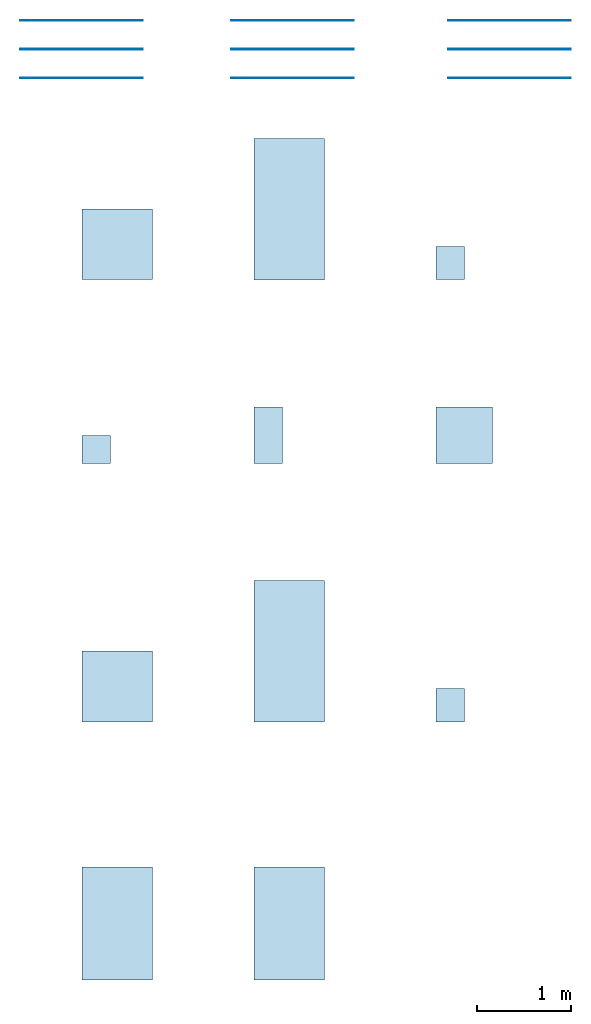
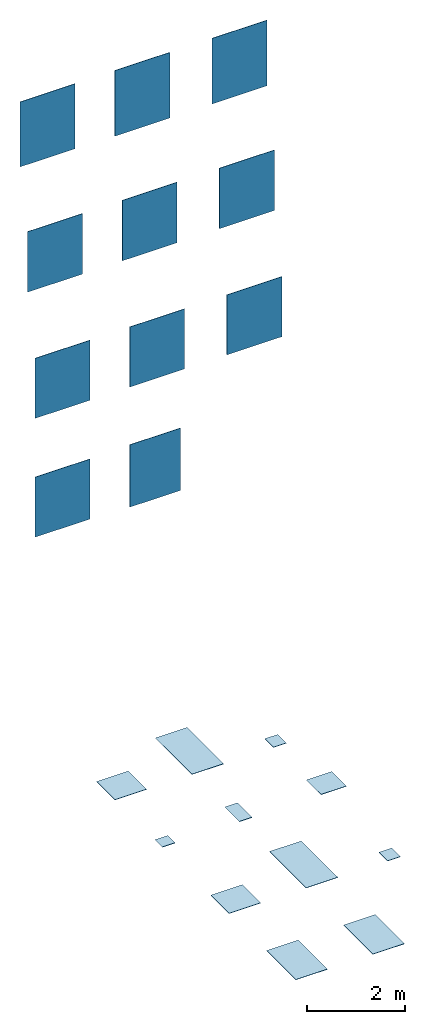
# One storey: 11 slabs, 11 walls.
"""IFC2X3 building model written with IfcOpenShell, lengths in millimetres."""

import ifcopenshell
import ifcopenshell.guid

model = None  # the IFC model being written
_history = None  # IfcOwnerHistory: only IFC2X3 demands one
_inside = {}  # id of a spatial element -> (the spatial element, [elements in it])
_under = {}  # id of a project, library or spatial element -> (it, [spatial elements below it])
_declared = {}  # id of a project -> (the project, [libraries it declares])
_typed = {}  # id of a type object -> (the type object, [elements of that type])
_made_of = {}  # id of a material, layer set ... -> (it, [elements and type objects made of it])


def new_model(schema):
    """Start an empty IFC model of exactly this schema.

    Asked for "IFC4X3", IfcOpenShell would pick the latest addendum, in which some entities
    have other attributes; the version numbers below select the first issue.
    IFC2X3 requires an IfcOwnerHistory on every rooted entity: one is made here for all.
    """
    global model, _history
    if schema == "IFC4X3":
        model = ifcopenshell.file(schema_version=(4, 3, 0, 0))
    else:
        model = ifcopenshell.file(schema=schema)
    _inside.clear()
    _under.clear()
    _declared.clear()
    _typed.clear()
    _made_of.clear()
    _history = None
    if model.schema == "IFC2X3":
        org = make("IfcOrganization", Name="unknown")
        user = make(
            "IfcPersonAndOrganization",
            ThePerson=make("IfcPerson", FamilyName="unknown"),
            TheOrganization=org,
        )
        app = make(
            "IfcApplication",
            ApplicationDeveloper=org,
            Version="unknown",
            ApplicationFullName="unknown",
            ApplicationIdentifier="unknown",
        )
        _history = make(
            "IfcOwnerHistory",
            OwningUser=user,
            OwningApplication=app,
            ChangeAction="ADDED",
            CreationDate=0,
        )
    return model


def make(cls, **values):
    """One entity of the class cls with the attributes given. An attribute that is None is left unset."""
    return model.create_entity(
        cls, **{name: value for name, value in values.items() if value is not None}
    )


def entity(cls, *values):
    """Any entity or typed value of the class cls, its attributes in the order of the schema. None: left unset."""
    e = model.create_entity(cls)
    for i, value in enumerate(values):
        if value is not None:
            e[i] = value
    return e


def rooted(cls, **values):
    """An entity with a GlobalId (a new one), such as an element, a storey or a relation."""
    return make(cls, GlobalId=ifcopenshell.guid.new(), OwnerHistory=_history, **values)


def si_unit(unit_type, name, prefix=None):
    """IfcSIUnit, for example si_unit("LENGTHUNIT", "METRE", prefix="MILLI")."""
    return make("IfcSIUnit", UnitType=unit_type, Prefix=prefix, Name=name)


def converted_unit(unit_type, name, factor, base, dimensions=None, offset=None):
    """IfcConversionBasedUnit, such as the inch: factor (a typed value) times the base unit."""
    return make(
        "IfcConversionBasedUnit"
        if offset is None
        else "IfcConversionBasedUnitWithOffset",
        ConversionOffset=offset,
        Dimensions=None
        if dimensions is None
        else entity("IfcDimensionalExponents", *dimensions),
        UnitType=unit_type,
        Name=name,
        ConversionFactor=make(
            "IfcMeasureWithUnit", ValueComponent=factor, UnitComponent=base
        ),
    )


def derived_unit(unit_type, elements):
    """IfcDerivedUnit: a product of units, each with its exponent."""
    return make(
        "IfcDerivedUnit",
        Elements=[
            make("IfcDerivedUnitElement", Unit=unit, Exponent=power)
            for unit, power in elements
        ],
        UnitType=unit_type,
    )


def assignment(units):
    """IfcUnitAssignment: the units of a project."""
    return None if units is None else make("IfcUnitAssignment", Units=units)


def point(xyz):
    """IfcCartesianPoint."""
    return None if xyz is None else make("IfcCartesianPoint", Coordinates=xyz)


def direction(xyz):
    """IfcDirection."""
    return None if xyz is None else make("IfcDirection", DirectionRatios=xyz)


def frame(location, z_axis=None, x_axis=None):
    """IfcAxis2Placement3D, a coordinate frame: its origin and axes. An axis left out is left unset."""
    return make(
        "IfcAxis2Placement3D",
        Location=point(location),
        Axis=direction(z_axis),
        RefDirection=direction(x_axis),
    )


def frame_2d(location, x_axis=None):
    """IfcAxis2Placement2D, a coordinate frame in the plane: its origin and x axis."""
    return make(
        "IfcAxis2Placement2D", Location=point(location), RefDirection=direction(x_axis)
    )


def origin():
    """The frame at (0, 0, 0) with its axes left unset."""
    return frame((0.0, 0.0, 0.0))


def origin_2d_with_axis():
    """The frame at (0, 0) in the plane with the x axis (1, 0) written out."""
    return frame_2d((0.0, 0.0), x_axis=(1.0, 0.0))


def place(relative_to, where):
    """IfcLocalPlacement: puts the frame where relative to a parent placement (None: the world)."""
    return make(
        "IfcLocalPlacement", PlacementRelTo=relative_to, RelativePlacement=where
    )


def context(
    kind, dimensions, precision=None, world=None, true_north=None, identifier=None
):
    """IfcGeometricRepresentationContext, for example the 3D "Model" context."""
    return make(
        "IfcGeometricRepresentationContext",
        ContextIdentifier=identifier,
        ContextType=kind,
        CoordinateSpaceDimension=dimensions,
        Precision=precision,
        WorldCoordinateSystem=world,
        TrueNorth=true_north,
    )


def subcontext(parent, identifier, kind, view, scale=None):
    """IfcGeometricRepresentationSubContext, for example "Body" below "Model"."""
    return make(
        "IfcGeometricRepresentationSubContext",
        ContextIdentifier=identifier,
        ContextType=kind,
        ParentContext=parent,
        TargetScale=scale,
        TargetView=view,
    )


def project(units=None, contexts=None):
    """IfcProject with its units and contexts."""
    return rooted(
        "IfcProject",
        Name="project",
        RepresentationContexts=contexts,
        UnitsInContext=assignment(units),
    )


def spatial(cls, under=None, at=None, **own):
    """A site, building, storey or space (cls), placed at a placement, below another one or the project."""
    s = rooted(cls, ObjectPlacement=at, **own)
    if under is not None:
        _under.setdefault(under.id(), (under, []))[1].append(s)
    return s


def profile(cls, at=None, kind="AREA", **sizes):
    """A parametric profile (cls). Its sizes go by their IFC names, for example OverallWidth=200.0."""
    return make(cls, ProfileType=kind, Position=at, **sizes)


def rectangle(**sizes):
    """IfcRectangleProfileDef."""
    return profile("IfcRectangleProfileDef", **sizes)


def extrude(swept, where, along, depth):
    """IfcExtrudedAreaSolid: the profile swept, set in the frame where, extruded along a direction by depth."""
    return make(
        "IfcExtrudedAreaSolid",
        SweptArea=swept,
        Position=where,
        ExtrudedDirection=direction(along),
        Depth=depth,
    )


def shape(context_of_items, identifier, shape_type, items):
    """IfcShapeRepresentation: the items that make up one representation, for example the "Body"."""
    return make(
        "IfcShapeRepresentation",
        ContextOfItems=context_of_items,
        RepresentationIdentifier=identifier,
        RepresentationType=shape_type,
        Items=items,
    )


def material(Name=None, Category=None):
    """IfcMaterial."""
    return make("IfcMaterial", Name=Name, Category=Category)


def layer(
    of_material, thickness, ventilated=None, Name=None, Category=None, Priority=None
):
    """IfcMaterialLayer: one layer of a wall or slab, of a material (None: an air gap)."""
    return make(
        "IfcMaterialLayer",
        Material=of_material,
        LayerThickness=thickness,
        IsVentilated=ventilated,
        Name=Name,
        Category=Category,
        Priority=Priority,
    )


def layer_set(layers, Name=None):
    """IfcMaterialLayerSet."""
    return make("IfcMaterialLayerSet", MaterialLayers=layers, LayerSetName=Name)


def layer_usage(for_layer_set, set_direction, sense, offset, extent=None):
    """IfcMaterialLayerSetUsage: how a layer set lies in its element."""
    return make(
        "IfcMaterialLayerSetUsage",
        ForLayerSet=for_layer_set,
        LayerSetDirection=set_direction,
        DirectionSense=sense,
        OffsetFromReferenceLine=offset,
        ReferenceExtent=extent,
    )


def made_of(thing, what):
    """Note that an element or type object is made of a material, layer set ...; save() writes the relation."""
    if what is not None:
        _made_of.setdefault(what.id(), (what, []))[1].append(thing)
    return thing


def type_object(cls, material=None, **own):
    """A type object (cls), such as IfcWallType, which elements share."""
    return made_of(rooted(cls, **own), material)


def element(
    cls,
    number,
    at=None,
    inside=None,
    cuts=None,
    type_object=None,
    material=None,
    context=None,
    identifier="Body",
    shape_type=None,
    held_by="IfcProductDefinitionShape",
    body=None,
    shapes=None,
    **own,
):
    """One element of the class cls, such as IfcWall. Its Tag is "e" and its number.

    at: its placement. inside: the storey or other place that contains it. cuts: it is an
    opening in that element (IfcRelVoidsElement). A single representation is given by context,
    identifier, shape_type and body (its items); several are given by shapes. held_by: the class
    of the entity that holds the representations. save() writes the other relations.
    """
    e = rooted(cls, Tag="e%d" % number, ObjectPlacement=at, **own)
    if body is not None:
        shapes = [shape(context, identifier, shape_type, body)]
    if shapes is not None:
        e.Representation = make(held_by, Representations=shapes)
    if inside is not None:
        _inside.setdefault(inside.id(), (inside, []))[1].append(e)
    if cuts is not None:
        rooted(
            "IfcRelVoidsElement", RelatingBuildingElement=cuts, RelatedOpeningElement=e
        )
    if type_object is not None:
        _typed.setdefault(type_object.id(), (type_object, []))[1].append(e)
    return made_of(e, material)


def aggregate(whole, parts):
    """IfcRelAggregates: a whole, such as a stair, and the parts it consists of."""
    return rooted("IfcRelAggregates", RelatingObject=whole, RelatedObjects=parts)


def save(model, path):
    """Write the relations noted so far, then the file.

    IfcRelAggregates (storeys below a building ...), IfcRelContainedInSpatialStructure (elements
    in a storey), IfcRelDefinesByType, IfcRelAssociatesMaterial and IfcRelDeclares: one each for
    every whole, place, type object, material and project.
    """
    for whole, parts in _under.values():
        aggregate(whole, parts)
    for where, things in _inside.values():
        rooted(
            "IfcRelContainedInSpatialStructure",
            RelatedElements=things,
            RelatingStructure=where,
        )
    for kind, things in _typed.values():
        rooted("IfcRelDefinesByType", RelatedObjects=things, RelatingType=kind)
    for what, things in _made_of.values():
        rooted("IfcRelAssociatesMaterial", RelatedObjects=things, RelatingMaterial=what)
    for by, libraries in _declared.values():
        rooted("IfcRelDeclares", RelatingContext=by, RelatedDefinitions=libraries)
    model.write(path)


model = new_model("IFC2X3")

# Units and contexts
model_context = context("Model", 3, precision=0.01, world=origin(), true_north=direction((6.123031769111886e-17, 1.0)))
body_context = subcontext(model_context, "Body", "Model", "MODEL_VIEW")
ifc_project = project(units=[si_unit("LENGTHUNIT", "METRE", prefix="MILLI"), si_unit("AREAUNIT", "SQUARE_METRE"), si_unit("VOLUMEUNIT", "CUBIC_METRE"), converted_unit("PLANEANGLEUNIT", "DEGREE", entity("IfcPlaneAngleMeasure", 0.017453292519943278), si_unit("PLANEANGLEUNIT", "RADIAN"), dimensions=[0, 0, 0, 0, 0, 0, 0]), si_unit("MASSUNIT", "GRAM", prefix="KILO"), derived_unit("MASSDENSITYUNIT", [(si_unit("MASSUNIT", "GRAM", prefix="KILO"), 1), (si_unit("LENGTHUNIT", "METRE"), -3)]), derived_unit("IONCONCENTRATIONUNIT", [(si_unit("MASSUNIT", "GRAM", prefix="KILO"), 1), (si_unit("LENGTHUNIT", "METRE"), -3)]), derived_unit("MOMENTOFINERTIAUNIT", [(si_unit("LENGTHUNIT", "METRE"), 4)]), si_unit("TIMEUNIT", "SECOND"), si_unit("FREQUENCYUNIT", "HERTZ"), si_unit("THERMODYNAMICTEMPERATUREUNIT", "DEGREE_CELSIUS"), derived_unit("THERMALTRANSMITTANCEUNIT", [(si_unit("MASSUNIT", "GRAM", prefix="KILO"), 1), (si_unit("THERMODYNAMICTEMPERATUREUNIT", "KELVIN"), -1), (si_unit("TIMEUNIT", "SECOND"), -3)]), derived_unit("THERMALCONDUCTANCEUNIT", [(si_unit("MASSUNIT", "GRAM", prefix="KILO"), 1), (si_unit("THERMODYNAMICTEMPERATUREUNIT", "KELVIN"), -1), (si_unit("TIMEUNIT", "SECOND"), -3), (si_unit("LENGTHUNIT", "METRE"), 1)]), derived_unit("VOLUMETRICFLOWRATEUNIT", [(si_unit("LENGTHUNIT", "METRE", prefix="DECI"), 3), (si_unit("TIMEUNIT", "SECOND"), -1)]), derived_unit("MASSFLOWRATEUNIT", [(si_unit("MASSUNIT", "GRAM", prefix="KILO"), 1), (si_unit("TIMEUNIT", "SECOND"), -1)]), derived_unit("ROTATIONALFREQUENCYUNIT", [(si_unit("TIMEUNIT", "SECOND"), -1)]), si_unit("ELECTRICCURRENTUNIT", "AMPERE"), si_unit("ELECTRICVOLTAGEUNIT", "VOLT"), si_unit("POWERUNIT", "WATT"), si_unit("FORCEUNIT", "NEWTON", prefix="KILO"), si_unit("ILLUMINANCEUNIT", "LUX"), si_unit("LUMINOUSFLUXUNIT", "LUMEN"), si_unit("LUMINOUSINTENSITYUNIT", "CANDELA"), si_unit("ENERGYUNIT", "JOULE"), derived_unit("USERDEFINED", [(si_unit("MASSUNIT", "GRAM", prefix="KILO"), -1), (si_unit("LENGTHUNIT", "METRE"), -2), (si_unit("TIMEUNIT", "SECOND"), 3), (si_unit("LUMINOUSFLUXUNIT", "LUMEN"), 1)]), derived_unit("USERDEFINED", [(si_unit("MASSUNIT", "GRAM", prefix="KILO"), 1), (si_unit("TIMEUNIT", "SECOND"), -3), (si_unit("LENGTHUNIT", "METRE"), 3), (si_unit("ELECTRICCURRENTUNIT", "AMPERE"), -2)]), derived_unit("SOUNDPOWERUNIT", [(si_unit("MASSUNIT", "GRAM", prefix="KILO"), 1), (si_unit("TIMEUNIT", "SECOND"), -3), (si_unit("LENGTHUNIT", "METRE"), 2)]), derived_unit("SOUNDPRESSUREUNIT", [(si_unit("MASSUNIT", "GRAM", prefix="KILO"), 1), (si_unit("LENGTHUNIT", "METRE"), -1), (si_unit("TIMEUNIT", "SECOND"), -2)]), derived_unit("LINEARVELOCITYUNIT", [(si_unit("LENGTHUNIT", "METRE"), 1), (si_unit("TIMEUNIT", "SECOND"), -1)]), si_unit("PRESSUREUNIT", "PASCAL"), derived_unit("USERDEFINED", [(si_unit("MASSUNIT", "GRAM", prefix="KILO"), 1), (si_unit("LENGTHUNIT", "METRE"), -2), (si_unit("TIMEUNIT", "SECOND"), -2)]), derived_unit("LINEARFORCEUNIT", [(si_unit("MASSUNIT", "GRAM", prefix="KILO"), 1), (si_unit("TIMEUNIT", "SECOND"), -2)]), derived_unit("PLANARFORCEUNIT", [(si_unit("MASSUNIT", "GRAM", prefix="KILO"), 1), (si_unit("LENGTHUNIT", "METRE"), -1), (si_unit("TIMEUNIT", "SECOND"), -2)]), derived_unit("SPECIFICHEATCAPACITYUNIT", [(si_unit("THERMODYNAMICTEMPERATUREUNIT", "KELVIN"), -1), (si_unit("LENGTHUNIT", "METRE"), 2), (si_unit("TIMEUNIT", "SECOND"), -2)]), derived_unit("HEATFLUXDENSITYUNIT", [(si_unit("MASSUNIT", "GRAM", prefix="KILO"), 1), (si_unit("TIMEUNIT", "SECOND"), -3)]), derived_unit("HEATINGVALUEUNIT", [(si_unit("LENGTHUNIT", "METRE"), 2), (si_unit("TIMEUNIT", "SECOND"), -2)]), derived_unit("VAPORPERMEABILITYUNIT", [(si_unit("LENGTHUNIT", "METRE"), -1), (si_unit("TIMEUNIT", "SECOND"), 1)]), derived_unit("DYNAMICVISCOSITYUNIT", [(si_unit("MASSUNIT", "GRAM", prefix="KILO"), 1), (si_unit("TIMEUNIT", "SECOND"), -1), (si_unit("LENGTHUNIT", "METRE"), -1)]), derived_unit("THERMALEXPANSIONCOEFFICIENTUNIT", [(si_unit("THERMODYNAMICTEMPERATUREUNIT", "KELVIN"), -1)]), derived_unit("MODULUSOFELASTICITYUNIT", [(si_unit("MASSUNIT", "GRAM", prefix="KILO"), 1), (si_unit("LENGTHUNIT", "METRE"), -1), (si_unit("TIMEUNIT", "SECOND"), -2)]), derived_unit("ISOTHERMALMOISTURECAPACITYUNIT", [(si_unit("MASSUNIT", "GRAM", prefix="KILO"), -1), (si_unit("LENGTHUNIT", "METRE"), 3)]), derived_unit("MOISTUREDIFFUSIVITYUNIT", [(si_unit("TIMEUNIT", "SECOND"), -1), (si_unit("LENGTHUNIT", "METRE"), 2)]), derived_unit("MASSPERLENGTHUNIT", [(si_unit("MASSUNIT", "GRAM", prefix="KILO"), 1), (si_unit("LENGTHUNIT", "METRE"), -1)]), derived_unit("THERMALRESISTANCEUNIT", [(si_unit("MASSUNIT", "GRAM", prefix="KILO"), -1), (si_unit("TIMEUNIT", "SECOND"), 3), (si_unit("THERMODYNAMICTEMPERATUREUNIT", "KELVIN"), 1)]), derived_unit("ACCELERATIONUNIT", [(si_unit("LENGTHUNIT", "METRE"), 1), (si_unit("TIMEUNIT", "SECOND"), -2)]), derived_unit("ANGULARVELOCITYUNIT", [(si_unit("TIMEUNIT", "SECOND"), -1), (si_unit("PLANEANGLEUNIT", "RADIAN"), 1)]), derived_unit("LINEARSTIFFNESSUNIT", [(si_unit("MASSUNIT", "GRAM", prefix="KILO"), 1), (si_unit("TIMEUNIT", "SECOND"), -2)]), derived_unit("WARPINGCONSTANTUNIT", [(si_unit("LENGTHUNIT", "METRE"), 6)]), derived_unit("LINEARMOMENTUNIT", [(si_unit("MASSUNIT", "GRAM", prefix="KILO"), 1), (si_unit("LENGTHUNIT", "METRE"), 1), (si_unit("TIMEUNIT", "SECOND"), -2)]), derived_unit("TORQUEUNIT", [(si_unit("MASSUNIT", "GRAM", prefix="KILO"), 1), (si_unit("LENGTHUNIT", "METRE"), 2), (si_unit("TIMEUNIT", "SECOND"), -2)])], contexts=[model_context])

# Site, building, storey
site_placement = place(None, origin())
site = spatial("IfcSite", under=ifc_project, at=site_placement, Name="Default", CompositionType="ELEMENT")
building_placement = place(site_placement, origin())
building = spatial("IfcBuilding", under=site, at=building_placement, CompositionType="ELEMENT")
storey_placement = place(building_placement, origin())
storey = spatial("IfcBuildingStorey", under=building, at=storey_placement, Name="Level 0", CompositionType="ELEMENT", Elevation=0.0)

# Slabs
ifc_material_1 = material(Name="Prestigio Travertino-Bianco-Lucido-Mosaico-Cube 30.4x35.2 OO31")
ifc_layer_1 = layer(ifc_material_1, 9.0)
ifc_material_2 = material(Name="<Unnamed>")
ifc_layer_2 = layer(ifc_material_2, 1.0)
ifc_layer_set_1 = layer_set([ifc_layer_1, ifc_layer_2], Name="Floor:Floor_Tiles_Refin-Prestigio_Travertino-Bianco-Lucido-Mosaico-Cube 30.4x35.2 OO31")
ifc_layer_usage_1 = layer_usage(ifc_layer_set_1, "AXIS3", "POSITIVE", 0.0)
slab_type_1 = type_object("IfcSlabType", Name="Floor:Floor_Tiles_Refin-Prestigio_Travertino-Bianco-Lucido-Mosaico-Cube 30.4x35.2 OO31", PredefinedType="FLOOR", material=ifc_layer_set_1)
slab_1_placement = place(storey_placement, origin())
element("IfcSlab", 1, at=slab_1_placement, inside=storey, type_object=slab_type_1, material=ifc_layer_usage_1, Name="Floor:Floor_Tiles_Refin-Prestigio_Travertino-Bianco-Lucido-Mosaico-Cube 30.4x35.2 OO31", ObjectType="Floor:Floor_Tiles_Refin-Prestigio_Travertino-Bianco-Lucido-Mosaico-Cube 30.4x35.2 OO31", PredefinedType="FLOOR", context=body_context, shape_type="SweptSolid", body=[
    extrude(rectangle(XDim=352.0000000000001, YDim=304.00000000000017, at=origin_2d_with_axis()), frame((10479.186141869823, 5565.462374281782, 0.0), z_axis=(0.0, 0.0, -1.0), x_axis=(0.0, 1.0, 0.0)), (0.0, 0.0, 1.0), 10.0),
])
ifc_material_3 = material(Name="Prestigio Travertino-Bianco-Lucido-75x75 OO02")
ifc_layer_3 = layer(ifc_material_3, 9.0)
ifc_layer_4 = layer(ifc_material_2, 1.0)
ifc_layer_set_2 = layer_set([ifc_layer_3, ifc_layer_4], Name="Floor:Floor_Tiles_Refin-Prestigio_Travertino-Bianco-Lucido-75x75 OO02")
ifc_layer_usage_2 = layer_usage(ifc_layer_set_2, "AXIS3", "POSITIVE", 0.0)
slab_type_2 = type_object("IfcSlabType", Name="Floor:Floor_Tiles_Refin-Prestigio_Travertino-Bianco-Lucido-75x75 OO02", PredefinedType="FLOOR", material=ifc_layer_set_2)
slab_2_placement = place(storey_placement, origin())
element("IfcSlab", 2, at=slab_2_placement, inside=storey, type_object=slab_type_2, material=ifc_layer_usage_2, Name="Floor:Floor_Tiles_Refin-Prestigio_Travertino-Bianco-Lucido-75x75 OO02", ObjectType="Floor:Floor_Tiles_Refin-Prestigio_Travertino-Bianco-Lucido-75x75 OO02", PredefinedType="FLOOR", context=body_context, shape_type="SweptSolid", body=[
    extrude(rectangle(XDim=749.9999999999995, YDim=750.0000000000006, at=frame_2d((5.400124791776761e-13, 1.0800249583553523e-12), x_axis=(1.0, 0.0))), frame((6949.375206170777, 5764.462374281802, 0.0), z_axis=(0.0, 0.0, -1.0), x_axis=(0.0, 1.0, 0.0)), (0.0, 0.0, 1.0), 10.0),
])
ifc_material_4 = material(Name="Prestigio Travertino-Bianco-Soft-60x60 OO05")
ifc_layer_5 = layer(ifc_material_4, 9.0)
ifc_layer_6 = layer(ifc_material_2, 1.0)
ifc_layer_set_3 = layer_set([ifc_layer_5, ifc_layer_6], Name="Floor:Floor_Tiles_Refin-Prestigio_Travertino-Bianco-Soft-60x60 OO05")
ifc_layer_usage_3 = layer_usage(ifc_layer_set_3, "AXIS3", "POSITIVE", 0.0)
slab_type_3 = type_object("IfcSlabType", Name="Floor:Floor_Tiles_Refin-Prestigio_Travertino-Bianco-Soft-60x60 OO05", PredefinedType="FLOOR", material=ifc_layer_set_3)
slab_3_placement = place(storey_placement, origin())
element("IfcSlab", 3, at=slab_3_placement, inside=storey, type_object=slab_type_3, material=ifc_layer_usage_3, Name="Floor:Floor_Tiles_Refin-Prestigio_Travertino-Bianco-Soft-60x60 OO05", ObjectType="Floor:Floor_Tiles_Refin-Prestigio_Travertino-Bianco-Soft-60x60 OO05", PredefinedType="FLOOR", context=body_context, shape_type="SweptSolid", body=[
    extrude(rectangle(XDim=600.0, YDim=600.0, at=frame_2d((0.0, 1.0800249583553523e-12), x_axis=(1.0, 0.0))), frame((10627.186141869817, 3739.462374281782, 0.0), z_axis=(0.0, 0.0, -1.0), x_axis=(0.0, 1.0, 0.0)), (0.0, 0.0, 1.0), 10.0),
])
ifc_material_5 = material(Name="Prestigio Travertino-Bianco-Soft-30x60 OO08")
ifc_layer_7 = layer(ifc_material_5, 9.0)
ifc_layer_8 = layer(ifc_material_2, 1.0)
ifc_layer_set_4 = layer_set([ifc_layer_7, ifc_layer_8], Name="Floor:Floor_Tiles_Refin-Prestigio_Travertino-Bianco-Soft-30x60 OO08")
ifc_layer_usage_4 = layer_usage(ifc_layer_set_4, "AXIS3", "POSITIVE", 0.0)
slab_type_4 = type_object("IfcSlabType", Name="Floor:Floor_Tiles_Refin-Prestigio_Travertino-Bianco-Soft-30x60 OO08", PredefinedType="FLOOR", material=ifc_layer_set_4)
slab_4_placement = place(storey_placement, origin())
element("IfcSlab", 4, at=slab_4_placement, inside=storey, type_object=slab_type_4, material=ifc_layer_usage_4, Name="Floor:Floor_Tiles_Refin-Prestigio_Travertino-Bianco-Soft-30x60 OO08", ObjectType="Floor:Floor_Tiles_Refin-Prestigio_Travertino-Bianco-Soft-30x60 OO08", PredefinedType="FLOOR", context=body_context, shape_type="SweptSolid", body=[
    extrude(rectangle(XDim=600.0, YDim=300.0, at=frame_2d((0.0, 5.400124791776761e-13), x_axis=(1.0, 0.0))), frame((8547.392405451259, 3739.462374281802, 0.0), z_axis=(0.0, 0.0, -1.0), x_axis=(0.0, 1.0, 0.0)), (0.0, 0.0, 1.0), 10.0),
])
ifc_material_6 = material(Name="Prestigio Travertino-Bianco-Mix-Mosaico-T 30x30 OO37")
ifc_layer_9 = layer(ifc_material_6, 9.0)
ifc_layer_10 = layer(ifc_material_2, 1.0)
ifc_layer_set_5 = layer_set([ifc_layer_9, ifc_layer_10], Name="Floor:Floor_Tiles_Refin-Prestigio_Travertino-Bianco-Lucido-Mosaico-T 30x30 OO37")
ifc_layer_usage_5 = layer_usage(ifc_layer_set_5, "AXIS3", "POSITIVE", 0.0)
slab_type_5 = type_object("IfcSlabType", Name="Floor:Floor_Tiles_Refin-Prestigio_Travertino-Bianco-Lucido-Mosaico-T 30x30 OO37", PredefinedType="FLOOR", material=ifc_layer_set_5)
slab_5_placement = place(storey_placement, origin())
element("IfcSlab", 5, at=slab_5_placement, inside=storey, type_object=slab_type_5, material=ifc_layer_usage_5, Name="Floor:Floor_Tiles_Refin-Prestigio_Travertino-Bianco-Lucido-Mosaico-T 30x30 OO37", ObjectType="Floor:Floor_Tiles_Refin-Prestigio_Travertino-Bianco-Lucido-Mosaico-T 30x30 OO37", PredefinedType="FLOOR", context=body_context, shape_type="SweptSolid", body=[
    extrude(rectangle(XDim=300.0, YDim=300.0, at=frame_2d((5.400124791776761e-13, -5.400124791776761e-13), x_axis=(1.0, 0.0))), frame((6724.375206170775, 3589.4623742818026, 0.0), z_axis=(0.0, 0.0, -1.0), x_axis=(0.0, 1.0, 0.0)), (0.0, 0.0, 1.0), 10.0),
])
ifc_material_7 = material(Name="Prestigio Travertino-Bianco-Soft-75x75 ON99")
ifc_layer_11 = layer(ifc_material_7, 9.0)
ifc_layer_12 = layer(ifc_material_2, 1.0)
ifc_layer_set_6 = layer_set([ifc_layer_11, ifc_layer_12], Name="Floor:Floor_Tiles_Refin-Prestigio_Travertino-Bianco-Soft-75x75 ON99")
ifc_layer_usage_6 = layer_usage(ifc_layer_set_6, "AXIS3", "POSITIVE", 0.0)
slab_type_6 = type_object("IfcSlabType", Name="Floor:Floor_Tiles_Refin-Prestigio_Travertino-Bianco-Soft-75x75 ON99", PredefinedType="FLOOR", material=ifc_layer_set_6)
slab_6_placement = place(storey_placement, origin())
element("IfcSlab", 6, at=slab_6_placement, inside=storey, type_object=slab_type_6, material=ifc_layer_usage_6, Name="Floor:Floor_Tiles_Refin-Prestigio_Travertino-Bianco-Soft-75x75 ON99", ObjectType="Floor:Floor_Tiles_Refin-Prestigio_Travertino-Bianco-Soft-75x75 ON99", PredefinedType="FLOOR", context=body_context, shape_type="SweptSolid", body=[
    extrude(rectangle(XDim=750.0, YDim=750.0000000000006, at=frame_2d((0.0, -1.0800249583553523e-12), x_axis=(1.0, 0.0))), frame((6947.600933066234, 1078.4367234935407, 0.0), z_axis=(0.0, 0.0, -1.0), x_axis=(0.0, 1.0, 0.0)), (0.0, 0.0, 1.0), 10.0),
])
ifc_material_8 = material(Name="Prestigio Travertino-Bianco-Lucido-75x150 OM87")
ifc_layer_13 = layer(ifc_material_8, 9.0)
ifc_layer_14 = layer(ifc_material_2, 1.0)
ifc_layer_set_7 = layer_set([ifc_layer_13, ifc_layer_14], Name="Floor:Floor_Tiles_Refin-Prestigio_Travertino-Bianco-Soft-75x150 OM87")
ifc_layer_usage_7 = layer_usage(ifc_layer_set_7, "AXIS3", "POSITIVE", 0.0)
slab_type_7 = type_object("IfcSlabType", Name="Floor:Floor_Tiles_Refin-Prestigio_Travertino-Bianco-Soft-75x150 OM87", PredefinedType="FLOOR", material=ifc_layer_set_7)
slab_7_placement = place(storey_placement, origin())
element("IfcSlab", 7, at=slab_7_placement, inside=storey, type_object=slab_type_7, material=ifc_layer_usage_7, Name="Floor:Floor_Tiles_Refin-Prestigio_Travertino-Bianco-Soft-75x150 OM87", ObjectType="Floor:Floor_Tiles_Refin-Prestigio_Travertino-Bianco-Soft-75x150 OM87", PredefinedType="FLOOR", context=body_context, shape_type="SweptSolid", body=[
    extrude(rectangle(XDim=1500.0, YDim=750.0000000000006, at=frame_2d((-5.115907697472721e-13, 1.0800249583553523e-12), x_axis=(1.0, 0.0))), frame((8772.39240545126, 6138.419206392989, 0.0), z_axis=(0.0, 0.0, -1.0), x_axis=(0.0, 1.0, 0.0)), (0.0, 0.0, 1.0), 10.0),
])
ifc_material_9 = material(Name="Prestigio Travertino-Bianco-Soft-75x150 OM84")
ifc_layer_15 = layer(ifc_material_9, 9.0)
ifc_layer_16 = layer(ifc_material_2, 1.0)
ifc_layer_set_8 = layer_set([ifc_layer_15, ifc_layer_16], Name="Floor:Floor_Tiles_Refin-Prestigio_Travertino-Bianco-Soft-75x150 OM84")
ifc_layer_usage_8 = layer_usage(ifc_layer_set_8, "AXIS3", "POSITIVE", 0.0)
slab_type_8 = type_object("IfcSlabType", Name="Floor:Floor_Tiles_Refin-Prestigio_Travertino-Bianco-Soft-75x150 OM84", PredefinedType="FLOOR", material=ifc_layer_set_8)
slab_8_placement = place(storey_placement, origin())
element("IfcSlab", 8, at=slab_8_placement, inside=storey, type_object=slab_type_8, material=ifc_layer_usage_8, Name="Floor:Floor_Tiles_Refin-Prestigio_Travertino-Bianco-Soft-75x150 OM84", ObjectType="Floor:Floor_Tiles_Refin-Prestigio_Travertino-Bianco-Soft-75x150 OM84", PredefinedType="FLOOR", context=body_context, shape_type="SweptSolid", body=[
    extrude(rectangle(XDim=1500.0, YDim=750.0000000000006, at=origin_2d_with_axis()), frame((8770.618132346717, 1453.4367234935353, 0.0), z_axis=(0.0, 0.0, -1.0), x_axis=(0.0, 1.0, 0.0)), (0.0, 0.0, 1.0), 10.0),
])
ifc_material_10 = material(Name="Prestigio Travertino-Bianco-Soft-Mosaico-Cube 30.4x35.2 OO34")
ifc_layer_17 = layer(ifc_material_10, 9.0)
ifc_layer_18 = layer(ifc_material_2, 1.0)
ifc_layer_set_9 = layer_set([ifc_layer_17, ifc_layer_18], Name="Floor:Floor_Tiles_Refin-Prestigio_Travertino-Bianco-Soft-Mosaico-Cube 30.4x35.2 OO34")
ifc_layer_usage_9 = layer_usage(ifc_layer_set_9, "AXIS3", "POSITIVE", 0.0)
slab_type_9 = type_object("IfcSlabType", Name="Floor:Floor_Tiles_Refin-Prestigio_Travertino-Bianco-Soft-Mosaico-Cube 30.4x35.2 OO34", PredefinedType="FLOOR", material=ifc_layer_set_9)
slab_9_placement = place(storey_placement, origin())
element("IfcSlab", 9, at=slab_9_placement, inside=storey, type_object=slab_type_9, material=ifc_layer_usage_9, Name="Floor:Floor_Tiles_Refin-Prestigio_Travertino-Bianco-Soft-Mosaico-Cube 30.4x35.2 OO34", ObjectType="Floor:Floor_Tiles_Refin-Prestigio_Travertino-Bianco-Soft-Mosaico-Cube 30.4x35.2 OO34", PredefinedType="FLOOR", context=body_context, shape_type="SweptSolid", body=[
    extrude(rectangle(XDim=352.0000000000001, YDim=304.00000000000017, at=frame_2d((-7.105427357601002e-14, 0.0), x_axis=(1.0, 0.0))), frame((10477.411868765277, 879.4367234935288, 0.0), z_axis=(0.0, 0.0, -1.0), x_axis=(0.0, 1.0, 0.0)), (0.0, 0.0, 1.0), 10.0),
])
ifc_material_11 = material(Name="Prestigio Travertino-Bianco-Soft-60x120 OZ36")
ifc_layer_19 = layer(ifc_material_11, 9.0)
ifc_layer_20 = layer(ifc_material_2, 1.0)
ifc_layer_set_10 = layer_set([ifc_layer_19, ifc_layer_20], Name="Floor:Floor_Tiles_Refin-Prestigio_Travertino-Bianco-Soft-60x120 OZ36")
ifc_layer_usage_10 = layer_usage(ifc_layer_set_10, "AXIS3", "POSITIVE", 0.0)
slab_type_10 = type_object("IfcSlabType", Name="Floor:Floor_Tiles_Refin-Prestigio_Travertino-Bianco-Soft-60x120 OZ36", PredefinedType="FLOOR", material=ifc_layer_set_10)
slab_10_placement = place(storey_placement, origin())
element("IfcSlab", 10, at=slab_10_placement, inside=storey, type_object=slab_type_10, material=ifc_layer_usage_10, Name="Floor:Floor_Tiles_Refin-Prestigio_Travertino-Bianco-Soft-60x120 OZ36", ObjectType="Floor:Floor_Tiles_Refin-Prestigio_Travertino-Bianco-Soft-60x120 OZ36", PredefinedType="FLOOR", context=body_context, shape_type="SweptSolid", body=[
    extrude(rectangle(XDim=1200.0, YDim=750.0000000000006, at=frame_2d((0.0, 1.0800249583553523e-12), x_axis=(1.0, 0.0))), frame((6947.600933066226, -1432.5889272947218, 0.0), z_axis=(0.0, 0.0, -1.0), x_axis=(0.0, 1.0, 0.0)), (0.0, 0.0, 1.0), 10.0),
])
ifc_material_12 = material(Name="Prestigio Travertino-Dorico-Bianco-60x120 OZ79")
ifc_layer_21 = layer(ifc_material_12, 9.0)
ifc_layer_22 = layer(ifc_material_2, 1.0)
ifc_layer_set_11 = layer_set([ifc_layer_21, ifc_layer_22], Name="Floor:Floor_Tiles_Refin-Prestigio_Travertino-Dorico-Bianco-60x120 OZ79")
ifc_layer_usage_11 = layer_usage(ifc_layer_set_11, "AXIS3", "POSITIVE", 0.0)
slab_type_11 = type_object("IfcSlabType", Name="Floor:Floor_Tiles_Refin-Prestigio_Travertino-Dorico-Bianco-60x120 OZ79", PredefinedType="FLOOR", material=ifc_layer_set_11)
slab_11_placement = place(storey_placement, origin())
element("IfcSlab", 11, at=slab_11_placement, inside=storey, type_object=slab_type_11, material=ifc_layer_usage_11, Name="Floor:Floor_Tiles_Refin-Prestigio_Travertino-Dorico-Bianco-60x120 OZ79", ObjectType="Floor:Floor_Tiles_Refin-Prestigio_Travertino-Dorico-Bianco-60x120 OZ79", PredefinedType="FLOOR", context=body_context, shape_type="SweptSolid", body=[
    extrude(rectangle(XDim=1200.0, YDim=750.0000000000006, at=origin_2d_with_axis()), frame((8770.618132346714, -1432.5889272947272, 0.0), z_axis=(0.0, 0.0, -1.0), x_axis=(0.0, 1.0, 0.0)), (0.0, 0.0, 1.0), 10.0),
])

# Walls
ifc_layer_23 = layer(ifc_material_2, 1.0)
ifc_layer_24 = layer(ifc_material_8, 9.0)
ifc_layer_set_12 = layer_set([ifc_layer_23, ifc_layer_24], Name="Basic Wall:Floor_Tiles_Refin-Prestigio_Travertino-Bianco-Lucido-75x150 OM87")
ifc_layer_usage_12 = layer_usage(ifc_layer_set_12, "AXIS2", "NEGATIVE", 5.000000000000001)
wall_type_1 = type_object("IfcWallType", Name="Basic Wall:Floor_Tiles_Refin-Prestigio_Travertino-Bianco-Lucido-75x150 OM87", PredefinedType="STANDARD", material=ifc_layer_set_12)
wall_1_placement = place(storey_placement, frame((8157.37520617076, 8137.383863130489, 14387.677044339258)))
element("IfcWallStandardCase", 12, at=wall_1_placement, inside=storey, type_object=wall_type_1, material=ifc_layer_usage_12, Name="Basic Wall:Floor_Tiles_Refin-Prestigio_Travertino-Bianco-Lucido-75x150 OM87", ObjectType="Basic Wall:Floor_Tiles_Refin-Prestigio_Travertino-Bianco-Lucido-75x150 OM87", context=body_context, shape_type="SweptSolid", body=[
    extrude(rectangle(XDim=1300.0, YDim=9.999999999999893, at=frame_2d((650.0, 7.638334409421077e-14), x_axis=(-1.0, 0.0))), origin(), (0.0, 0.0, 1.0), 1641.7417352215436),
])
ifc_layer_25 = layer(ifc_material_2, 1.0)
ifc_layer_26 = layer(ifc_material_1, 9.0)
ifc_layer_set_13 = layer_set([ifc_layer_25, ifc_layer_26], Name="Basic Wall:Floor_Tiles_Refin-Prestigio_Travertino-Bianco-Lucido-Mosaico-Cube 30.4x35.2 OO31")
ifc_layer_usage_13 = layer_usage(ifc_layer_set_13, "AXIS2", "NEGATIVE", 5.000000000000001)
wall_type_2 = type_object("IfcWallType", Name="Basic Wall:Floor_Tiles_Refin-Prestigio_Travertino-Bianco-Lucido-Mosaico-Cube 30.4x35.2 OO31", PredefinedType="STANDARD", material=ifc_layer_set_13)
wall_2_placement = place(storey_placement, frame((10457.375206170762, 8137.383863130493, 14387.677044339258)))
element("IfcWallStandardCase", 13, at=wall_2_placement, inside=storey, type_object=wall_type_2, material=ifc_layer_usage_13, Name="Basic Wall:Floor_Tiles_Refin-Prestigio_Travertino-Bianco-Lucido-Mosaico-Cube 30.4x35.2 OO31", ObjectType="Basic Wall:Floor_Tiles_Refin-Prestigio_Travertino-Bianco-Lucido-Mosaico-Cube 30.4x35.2 OO31", context=body_context, shape_type="SweptSolid", body=[
    extrude(rectangle(XDim=1299.999999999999, YDim=9.999999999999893, at=frame_2d((649.9999999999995, 7.638334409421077e-14), x_axis=(-1.0, 0.0))), origin(), (0.0, 0.0, 1.0), 1641.7417352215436),
])
ifc_layer_27 = layer(ifc_material_2, 1.0)
ifc_layer_28 = layer(ifc_material_3, 9.0)
ifc_layer_set_14 = layer_set([ifc_layer_27, ifc_layer_28], Name="Basic Wall:Floor_Tiles_Refin-Prestigio_Travertino-Bianco-Lucido-75x75 OO02")
ifc_layer_usage_14 = layer_usage(ifc_layer_set_14, "AXIS2", "NEGATIVE", 5.000000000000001)
wall_type_3 = type_object("IfcWallType", Name="Basic Wall:Floor_Tiles_Refin-Prestigio_Travertino-Bianco-Lucido-75x75 OO02", PredefinedType="STANDARD", material=ifc_layer_set_14)
wall_3_placement = place(storey_placement, frame((5917.375206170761, 8137.383863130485, 14403.726734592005)))
element("IfcWallStandardCase", 14, at=wall_3_placement, inside=storey, type_object=wall_type_3, material=ifc_layer_usage_14, Name="Basic Wall:Floor_Tiles_Refin-Prestigio_Travertino-Bianco-Lucido-75x75 OO02", ObjectType="Basic Wall:Floor_Tiles_Refin-Prestigio_Travertino-Bianco-Lucido-75x75 OO02", context=body_context, shape_type="SweptSolid", body=[
    extrude(rectangle(XDim=1300.0, YDim=9.999999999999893, at=frame_2d((650.0, 7.638334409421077e-14), x_axis=(-1.0, 0.0))), origin(), (0.0, 0.0, 1.0), 1625.692044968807),
])
ifc_layer_29 = layer(ifc_material_2, 1.0)
ifc_layer_30 = layer(ifc_material_6, 9.0)
ifc_layer_set_15 = layer_set([ifc_layer_29, ifc_layer_30], Name="Basic Wall:Floor_Tiles_Refin-Prestigio_Travertino-Bianco-Lucido-Mosaico-T 30x30 OO37")
ifc_layer_usage_15 = layer_usage(ifc_layer_set_15, "AXIS2", "NEGATIVE", 5.000000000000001)
wall_type_4 = type_object("IfcWallType", Name="Basic Wall:Floor_Tiles_Refin-Prestigio_Travertino-Bianco-Lucido-Mosaico-T 30x30 OO37", PredefinedType="STANDARD", material=ifc_layer_set_15)
wall_4_placement = place(storey_placement, frame((5917.375206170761, 7832.3838631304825, 11452.543626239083)))
element("IfcWallStandardCase", 15, at=wall_4_placement, inside=storey, type_object=wall_type_4, material=ifc_layer_usage_15, Name="Basic Wall:Floor_Tiles_Refin-Prestigio_Travertino-Bianco-Lucido-Mosaico-T 30x30 OO37", ObjectType="Basic Wall:Floor_Tiles_Refin-Prestigio_Travertino-Bianco-Lucido-Mosaico-T 30x30 OO37", context=body_context, shape_type="SweptSolid", body=[
    extrude(rectangle(XDim=1300.0, YDim=9.999999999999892, at=frame_2d((650.0, 0.0), x_axis=(-1.0, 0.0))), origin(), (0.0, 0.0, 1.0), 1513.1985565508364),
])
ifc_layer_31 = layer(ifc_material_2, 1.0)
ifc_layer_32 = layer(ifc_material_5, 9.0)
ifc_layer_set_16 = layer_set([ifc_layer_31, ifc_layer_32], Name="Basic Wall:Floor_Tiles_Refin-Prestigio_Travertino-Bianco-Soft-30x60 OO08")
ifc_layer_usage_16 = layer_usage(ifc_layer_set_16, "AXIS2", "NEGATIVE", 5.000000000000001)
wall_type_5 = type_object("IfcWallType", Name="Basic Wall:Floor_Tiles_Refin-Prestigio_Travertino-Bianco-Soft-30x60 OO08", PredefinedType="STANDARD", material=ifc_layer_set_16)
wall_5_placement = place(storey_placement, frame((8157.375206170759, 7832.383863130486, 11452.543626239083)))
element("IfcWallStandardCase", 16, at=wall_5_placement, inside=storey, type_object=wall_type_5, material=ifc_layer_usage_16, Name="Basic Wall:Floor_Tiles_Refin-Prestigio_Travertino-Bianco-Soft-30x60 OO08", ObjectType="Basic Wall:Floor_Tiles_Refin-Prestigio_Travertino-Bianco-Soft-30x60 OO08", context=body_context, shape_type="SweptSolid", body=[
    extrude(rectangle(XDim=1300.0, YDim=9.999999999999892, at=frame_2d((650.0, 0.0), x_axis=(-1.0, 0.0))), origin(), (0.0, 0.0, 1.0), 1513.1985565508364),
])
ifc_layer_33 = layer(ifc_material_2, 1.0)
ifc_layer_34 = layer(ifc_material_4, 9.0)
ifc_layer_set_17 = layer_set([ifc_layer_33, ifc_layer_34], Name="Basic Wall:Floor_Tiles_Refin-Prestigio_Travertino-Bianco-Soft-60x60 OO05")
ifc_layer_usage_17 = layer_usage(ifc_layer_set_17, "AXIS2", "NEGATIVE", 5.000000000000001)
wall_type_6 = type_object("IfcWallType", Name="Basic Wall:Floor_Tiles_Refin-Prestigio_Travertino-Bianco-Soft-60x60 OO05", PredefinedType="STANDARD", material=ifc_layer_set_17)
wall_6_placement = place(storey_placement, frame((10457.37520617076, 7832.383863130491, 11452.543626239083)))
element("IfcWallStandardCase", 17, at=wall_6_placement, inside=storey, type_object=wall_type_6, material=ifc_layer_usage_17, Name="Basic Wall:Floor_Tiles_Refin-Prestigio_Travertino-Bianco-Soft-60x60 OO05", ObjectType="Basic Wall:Floor_Tiles_Refin-Prestigio_Travertino-Bianco-Soft-60x60 OO05", context=body_context, shape_type="SweptSolid", body=[
    extrude(rectangle(XDim=1300.0000000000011, YDim=9.999999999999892, at=frame_2d((650.0000000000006, 0.0), x_axis=(-1.0, 0.0))), origin(), (0.0, 0.0, 1.0), 1513.1985565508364),
])
ifc_layer_35 = layer(ifc_material_2, 1.0)
ifc_layer_36 = layer(ifc_material_7, 9.0)
ifc_layer_set_18 = layer_set([ifc_layer_35, ifc_layer_36], Name="Basic Wall:Floor_Tiles_Refin-Prestigio_Travertino-Bianco-Soft-75x75 ON99")
ifc_layer_usage_18 = layer_usage(ifc_layer_set_18, "AXIS2", "NEGATIVE", 5.000000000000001)
wall_type_7 = type_object("IfcWallType", Name="Basic Wall:Floor_Tiles_Refin-Prestigio_Travertino-Bianco-Soft-75x75 ON99", PredefinedType="STANDARD", material=ifc_layer_set_18)
wall_7_placement = place(storey_placement, frame((5917.375206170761, 7527.3838631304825, 8479.102721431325)))
element("IfcWallStandardCase", 18, at=wall_7_placement, inside=storey, type_object=wall_type_7, material=ifc_layer_usage_18, Name="Basic Wall:Floor_Tiles_Refin-Prestigio_Travertino-Bianco-Soft-75x75 ON99", ObjectType="Basic Wall:Floor_Tiles_Refin-Prestigio_Travertino-Bianco-Soft-75x75 ON99", context=body_context, shape_type="SweptSolid", body=[
    extrude(rectangle(XDim=1300.0, YDim=9.999999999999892, at=frame_2d((650.0, 0.0), x_axis=(-1.0, 0.0))), origin(), (0.0, 0.0, 1.0), 1502.5740159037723),
])
ifc_layer_37 = layer(ifc_material_2, 1.0)
ifc_layer_38 = layer(ifc_material_9, 9.0)
ifc_layer_set_19 = layer_set([ifc_layer_37, ifc_layer_38], Name="Basic Wall:Floor_Tiles_Refin-Prestigio_Travertino-Bianco-Soft-75x150 OM84")
ifc_layer_usage_19 = layer_usage(ifc_layer_set_19, "AXIS2", "NEGATIVE", 5.000000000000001)
wall_type_8 = type_object("IfcWallType", Name="Basic Wall:Floor_Tiles_Refin-Prestigio_Travertino-Bianco-Soft-75x150 OM84", PredefinedType="STANDARD", material=ifc_layer_set_19)
wall_8_placement = place(storey_placement, frame((8157.375206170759, 7527.383863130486, 8479.102721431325)))
element("IfcWallStandardCase", 19, at=wall_8_placement, inside=storey, type_object=wall_type_8, material=ifc_layer_usage_19, Name="Basic Wall:Floor_Tiles_Refin-Prestigio_Travertino-Bianco-Soft-75x150 OM84", ObjectType="Basic Wall:Floor_Tiles_Refin-Prestigio_Travertino-Bianco-Soft-75x150 OM84", context=body_context, shape_type="SweptSolid", body=[
    extrude(rectangle(XDim=1300.0, YDim=9.999999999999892, at=frame_2d((650.0, 0.0), x_axis=(-1.0, 0.0))), origin(), (0.0, 0.0, 1.0), 1502.5740159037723),
])
ifc_layer_39 = layer(ifc_material_2, 1.0)
ifc_layer_40 = layer(ifc_material_10, 9.0)
ifc_layer_set_20 = layer_set([ifc_layer_39, ifc_layer_40], Name="Basic Wall:Floor_Tiles_Refin-Prestigio_Travertino-Bianco-Soft-Mosaico-Cube 30.4x35.2 OO34")
ifc_layer_usage_20 = layer_usage(ifc_layer_set_20, "AXIS2", "NEGATIVE", 5.000000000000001)
wall_type_9 = type_object("IfcWallType", Name="Basic Wall:Floor_Tiles_Refin-Prestigio_Travertino-Bianco-Soft-Mosaico-Cube 30.4x35.2 OO34", PredefinedType="STANDARD", material=ifc_layer_set_20)
wall_9_placement = place(storey_placement, frame((10457.37520617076, 7527.383863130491, 8479.102721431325)))
element("IfcWallStandardCase", 20, at=wall_9_placement, inside=storey, type_object=wall_type_9, material=ifc_layer_usage_20, Name="Basic Wall:Floor_Tiles_Refin-Prestigio_Travertino-Bianco-Soft-Mosaico-Cube 30.4x35.2 OO34", ObjectType="Basic Wall:Floor_Tiles_Refin-Prestigio_Travertino-Bianco-Soft-Mosaico-Cube 30.4x35.2 OO34", context=body_context, shape_type="SweptSolid", body=[
    extrude(rectangle(XDim=1300.0000000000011, YDim=9.999999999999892, at=frame_2d((650.0000000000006, 0.0), x_axis=(-1.0, 0.0))), origin(), (0.0, 0.0, 1.0), 1502.5740159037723),
])
ifc_layer_41 = layer(ifc_material_2, 1.0)
ifc_layer_42 = layer(ifc_material_11, 9.0)
ifc_layer_set_21 = layer_set([ifc_layer_41, ifc_layer_42], Name="Basic Wall:Floor_Tiles_Refin-Prestigio_Travertino-Bianco-Soft-60x120 OZ36")
ifc_layer_usage_21 = layer_usage(ifc_layer_set_21, "AXIS2", "POSITIVE", -5.000000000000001)
wall_type_10 = type_object("IfcWallType", Name="Basic Wall:Floor_Tiles_Refin-Prestigio_Travertino-Bianco-Soft-60x120 OZ36", PredefinedType="STANDARD", material=ifc_layer_set_21)
wall_10_placement = place(storey_placement, frame((7217.375206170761, 7527.383863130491, 5505.661816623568), z_axis=(0.0, 0.0, 1.0), x_axis=(-1.0, 0.0, 0.0)))
element("IfcWallStandardCase", 21, at=wall_10_placement, inside=storey, type_object=wall_type_10, material=ifc_layer_usage_21, Name="Basic Wall:Floor_Tiles_Refin-Prestigio_Travertino-Bianco-Soft-60x120 OZ36", ObjectType="Basic Wall:Floor_Tiles_Refin-Prestigio_Travertino-Bianco-Soft-60x120 OZ36", context=body_context, shape_type="SweptSolid", body=[
    extrude(rectangle(XDim=1300.0, YDim=9.999999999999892, at=frame_2d((650.0, 0.0), x_axis=(-1.0, 0.0))), origin(), (0.0, 0.0, 1.0), 1502.5740159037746),
])
ifc_layer_43 = layer(ifc_material_2, 1.0)
ifc_layer_44 = layer(ifc_material_12, 9.0)
ifc_layer_set_22 = layer_set([ifc_layer_43, ifc_layer_44], Name="Basic Wall:Floor_Tiles_Refin-Prestigio_Travertino-Dorico-Bianco-60x120 OZ79")
ifc_layer_usage_22 = layer_usage(ifc_layer_set_22, "AXIS2", "POSITIVE", -5.000000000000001)
wall_type_11 = type_object("IfcWallType", Name="Basic Wall:Floor_Tiles_Refin-Prestigio_Travertino-Dorico-Bianco-60x120 OZ79", PredefinedType="STANDARD", material=ifc_layer_set_22)
wall_11_placement = place(storey_placement, frame((9357.37520617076, 7527.383863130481, 5472.634481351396), z_axis=(0.0, 0.0, 1.0), x_axis=(-1.0, 0.0, 0.0)))
element("IfcWallStandardCase", 22, at=wall_11_placement, inside=storey, type_object=wall_type_11, material=ifc_layer_usage_22, Name="Basic Wall:Floor_Tiles_Refin-Prestigio_Travertino-Dorico-Bianco-60x120 OZ79", ObjectType="Basic Wall:Floor_Tiles_Refin-Prestigio_Travertino-Dorico-Bianco-60x120 OZ79", context=body_context, shape_type="SweptSolid", body=[
    extrude(rectangle(XDim=1200.0000000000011, YDim=9.999999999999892, at=frame_2d((600.0000000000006, 0.0), x_axis=(-1.0, 0.0))), origin(), (0.0, 0.0, 1.0), 1560.4587418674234),
])

save(model, "model.ifc")
